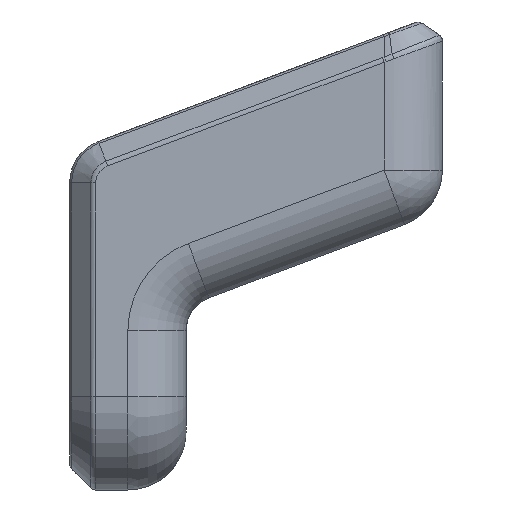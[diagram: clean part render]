
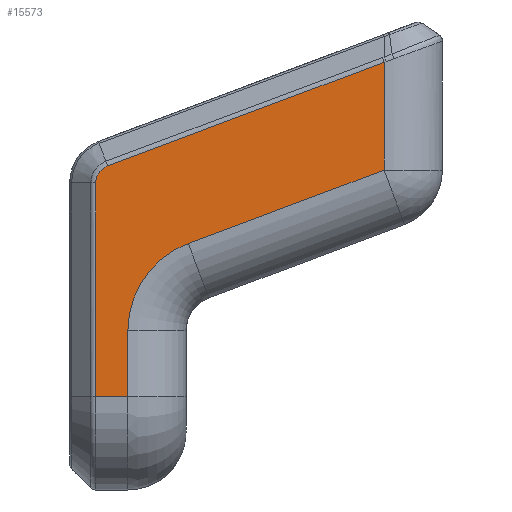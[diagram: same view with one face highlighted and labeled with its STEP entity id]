
A CAD part, left-side view. The second image highlights one B-rep face of the part: STEP entity #15573.
In plain terms, the highlighted planar face has unit normal (-1, 0, 0).
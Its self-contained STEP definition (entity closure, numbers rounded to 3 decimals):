
#8450 = CARTESIAN_POINT ( 'NONE',  ( -75., 13.751, -18. ) ) ;
#8451 = CARTESIAN_POINT ( 'NONE',  ( -75., 11., -18. ) ) ;
#8452 = CARTESIAN_POINT ( 'NONE',  ( -75., 11., -12.329 ) ) ;
#8453 = CARTESIAN_POINT ( 'NONE',  ( -75., 5.809, -4.838 ) ) ;
#8460 = CARTESIAN_POINT ( 'NONE',  ( -75., -11., 1.465 ) ) ;
#8461 = CARTESIAN_POINT ( 'NONE',  ( -75., -11., 10.724 ) ) ;
#8462 = CARTESIAN_POINT ( 'NONE',  ( -75., 12.745, 1.819 ) ) ;
#8463 = CARTESIAN_POINT ( 'NONE',  ( -75., 13.751, 0.367 ) ) ;
#9319 = DIRECTION ( 'NONE',  ( 0., -1., 0. ) ) ;
#9321 = CARTESIAN_POINT ( 'NONE',  ( -75., 6., -18. ) ) ;
#9852 = DIRECTION ( 'NONE',  ( 0., 0., -1. ) ) ;
#9853 = DIRECTION ( 'NONE',  ( 1., 0., 0. ) ) ;
#9856 = CARTESIAN_POINT ( 'NONE',  ( -75., 3., -12.329 ) ) ;
#9880 = DIRECTION ( 'NONE',  ( 0., 0., -1. ) ) ;
#9881 = DIRECTION ( 'NONE',  ( -1., 0., 0. ) ) ;
#9883 = CARTESIAN_POINT ( 'NONE',  ( -75., 12.2, 0.367 ) ) ;
#10655 = ORIENTED_EDGE ( 'NONE', *, *, #15566, .T. ) ;
#10658 = ORIENTED_EDGE ( 'NONE', *, *, #15486, .T. ) ;
#10659 = ORIENTED_EDGE ( 'NONE', *, *, #15563, .T. ) ;
#10660 = ORIENTED_EDGE ( 'NONE', *, *, #15550, .T. ) ;
#10661 = ORIENTED_EDGE ( 'NONE', *, *, #15565, .T. ) ;
#10662 = ORIENTED_EDGE ( 'NONE', *, *, #15555, .T. ) ;
#10663 = ORIENTED_EDGE ( 'NONE', *, *, #15570, .T. ) ;
#10664 = ORIENTED_EDGE ( 'NONE', *, *, #15568, .T. ) ;
#11170 = B_SPLINE_CURVE_WITH_KNOTS ( 'NONE', 3,
 ( #18357, #18469, #18359, #18425, #18362, #18500, #18502, #18378, #18377, #18375 ),
 .UNSPECIFIED., .F., .F.,
 ( 4, 3, 3, 4 ),
 ( 0., 0.004, 0.013, 0.018 ),
 .UNSPECIFIED. ) ;
#11172 = B_SPLINE_CURVE_WITH_KNOTS ( 'NONE', 3,
 ( #18386, #18423, #18418, #18397, #18395, #18393, #18504, #18442, #18444, #18415 ),
 .UNSPECIFIED., .F., .F.,
 ( 4, 3, 3, 4 ),
 ( 0., 0.006, 0.019, 0.025 ),
 .UNSPECIFIED. ) ;
#11597 = EDGE_LOOP ( 'NONE', ( #10655, #10661, #10660, #10659, #10658, #10663, #10662, #10664 ) ) ;
#15486 = EDGE_CURVE ( 'NONE', #19674, #19675, #20467, .T. ) ;
#15550 = EDGE_CURVE ( 'NONE', #19686, #19687, #18856, .T. ) ;
#15555 = EDGE_CURVE ( 'NONE', #19676, #19677, #18874, .T. ) ;
#15563 = EDGE_CURVE ( 'NONE', #19687, #19674, #11170, .T. ) ;
#15565 = EDGE_CURVE ( 'NONE', #19685, #19686, #11172, .T. ) ;
#15566 = EDGE_CURVE ( 'NONE', #19684, #19685, #18904, .T. ) ;
#15568 = EDGE_CURVE ( 'NONE', #19677, #19684, #18919, .T. ) ;
#15570 = EDGE_CURVE ( 'NONE', #19675, #19676, #18927, .T. ) ;
#15573 = ADVANCED_FACE ( 'NONE', ( #18935 ), #18550, .F. ) ;
#16422 = AXIS2_PLACEMENT_3D ( 'NONE', #9856, #9853, #9852 ) ;
#16460 = AXIS2_PLACEMENT_3D ( 'NONE', #18541, #18667, #18539 ) ;
#18357 = CARTESIAN_POINT ( 'NONE',  ( -75., 13.751, 0.367 ) ) ;
#18359 = CARTESIAN_POINT ( 'NONE',  ( -75., 13.743, -2.414 ) ) ;
#18362 = CARTESIAN_POINT ( 'NONE',  ( -75., 13.742, -6.586 ) ) ;
#18375 = CARTESIAN_POINT ( 'NONE',  ( -75., 13.751, -18. ) ) ;
#18377 = CARTESIAN_POINT ( 'NONE',  ( -75., 13.752, -16.05 ) ) ;
#18378 = CARTESIAN_POINT ( 'NONE',  ( -75., 13.75, -14.099 ) ) ;
#18386 = CARTESIAN_POINT ( 'NONE',  ( -75., -11., 10.724 ) ) ;
#18393 = CARTESIAN_POINT ( 'NONE',  ( -75., 2.769, 5.566 ) ) ;
#18395 = CARTESIAN_POINT ( 'NONE',  ( -75., -1.222, 7.065 ) ) ;
#18397 = CARTESIAN_POINT ( 'NONE',  ( -75., -5.214, 8.56 ) ) ;
#18415 = CARTESIAN_POINT ( 'NONE',  ( -75., 12.745, 1.819 ) ) ;
#18418 = CARTESIAN_POINT ( 'NONE',  ( -75., -7.142, 9.282 ) ) ;
#18423 = CARTESIAN_POINT ( 'NONE',  ( -75., -9.071, 10.003 ) ) ;
#18425 = CARTESIAN_POINT ( 'NONE',  ( -75., 13.743, -3.804 ) ) ;
#18433 = DIRECTION ( 'NONE',  ( 0., 0., 1. ) ) ;
#18442 = CARTESIAN_POINT ( 'NONE',  ( -75., 8.754, 3.317 ) ) ;
#18444 = CARTESIAN_POINT ( 'NONE',  ( -75., 10.749, 2.568 ) ) ;
#18456 = CARTESIAN_POINT ( 'NONE',  ( -75., 8.221, -5.743 ) ) ;
#18469 = CARTESIAN_POINT ( 'NONE',  ( -75., 13.745, -1.024 ) ) ;
#18492 = CARTESIAN_POINT ( 'NONE',  ( -75., -11., 15. ) ) ;
#18500 = CARTESIAN_POINT ( 'NONE',  ( -75., 13.746, -9.367 ) ) ;
#18502 = CARTESIAN_POINT ( 'NONE',  ( -75., 13.749, -12.149 ) ) ;
#18504 = CARTESIAN_POINT ( 'NONE',  ( -75., 6.759, 4.067 ) ) ;
#18516 = DIRECTION ( 'NONE',  ( 0., -0.936, 0.351 ) ) ;
#18539 = DIRECTION ( 'NONE',  ( 0., 0., -1. ) ) ;
#18541 = CARTESIAN_POINT ( 'NONE',  ( -75., 16., 15. ) ) ;
#18550 = PLANE ( 'NONE',  #16460 ) ;
#18603 = CARTESIAN_POINT ( 'NONE',  ( -75., 11., -12.329 ) ) ;
#18607 = DIRECTION ( 'NONE',  ( 0., 0., 1. ) ) ;
#18667 = DIRECTION ( 'NONE',  ( 1., 0., 0. ) ) ;
#18701 = AXIS2_PLACEMENT_3D ( 'NONE', #9883, #9881, #9880 ) ;
#18856 = CIRCLE ( 'NONE', #18701, 1.551 ) ;
#18874 = CIRCLE ( 'NONE', #16422, 8. ) ;
#18887 = VECTOR ( 'NONE', #18433, 1000. ) ;
#18904 = LINE ( 'NONE', #18492, #18887 ) ;
#18919 = LINE ( 'NONE', #18456, #18920 ) ;
#18920 = VECTOR ( 'NONE', #18516, 1000. ) ;
#18927 = LINE ( 'NONE', #18603, #18928 ) ;
#18928 = VECTOR ( 'NONE', #18607, 1000. ) ;
#18935 = FACE_OUTER_BOUND ( 'NONE', #11597, .T. ) ;
#19674 = VERTEX_POINT ( 'NONE', #8450 ) ;
#19675 = VERTEX_POINT ( 'NONE', #8451 ) ;
#19676 = VERTEX_POINT ( 'NONE', #8452 ) ;
#19677 = VERTEX_POINT ( 'NONE', #8453 ) ;
#19684 = VERTEX_POINT ( 'NONE', #8460 ) ;
#19685 = VERTEX_POINT ( 'NONE', #8461 ) ;
#19686 = VERTEX_POINT ( 'NONE', #8462 ) ;
#19687 = VERTEX_POINT ( 'NONE', #8463 ) ;
#20467 = LINE ( 'NONE', #9321, #20468 ) ;
#20468 = VECTOR ( 'NONE', #9319, 1000. ) ;
